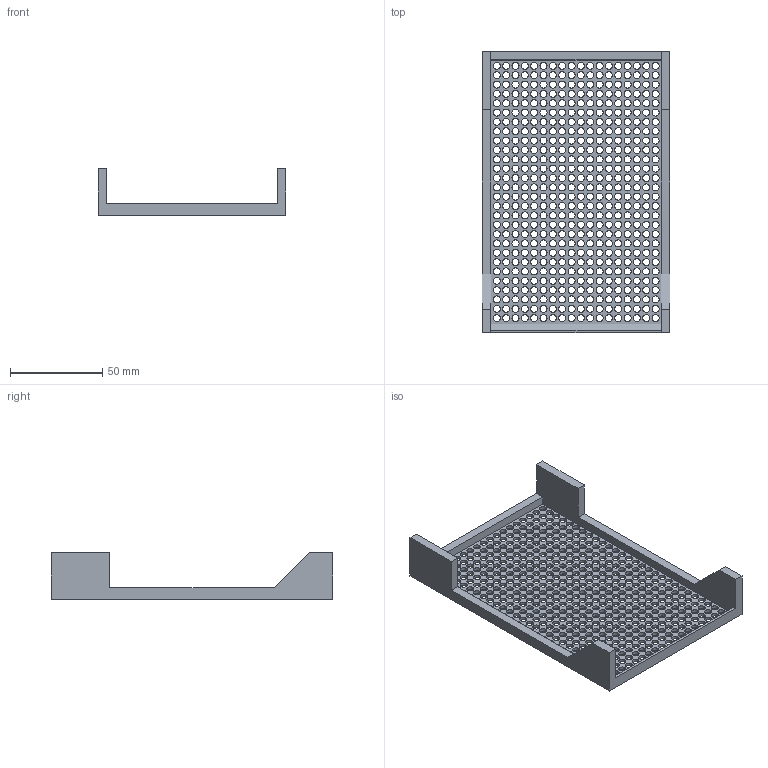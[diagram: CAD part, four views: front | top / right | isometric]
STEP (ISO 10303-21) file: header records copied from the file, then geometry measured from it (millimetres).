
FILE_DESCRIPTION(/* description */ ('STEP AP242 Edition 2','CAx-IF Rec.Pracs.---Representation and Presentation of Product Manufacturing Information (PMI)---4.0---2014-10-13','CAx-IF Rec.Pracs.---3D Tessellated Geometry---0.4---2014-09-14','2;1','CAx-IF Rec.Pracs.---User Defined Attributes---1.5---2016-08-15'),/* implementation_level */ '2;1');
FILE_NAME(/* name */ 'Part Studio 1 - Part 1',/* time_stamp */ '2026-08-02T13:57:24Z',/* author */ (''),/* organization */ (''),/* preprocessor_version */ 'ST-DEVELOPER v20',/* originating_system */ 'ONSHAPE BY PTC INC, 1.218',/* authorisation */ ' ');
FILE_SCHEMA (('AP242_MANAGED_MODEL_BASED_3D_ENGINEERING_MIM_LF { 1 0 10303 442 3 1 4 }'));
Length unit declared in the file: metre
Products named in the file (1): Part 1
Bounding box: 101.6 x 152.4 x 25.41 mm (x, y, z)
Volume: 35925 mm3; surface area: 39094.9 mm2
Topology: 1 solids, 1 shells, 527 faces, 1575 edges, 1050 vertices
Faces by surface type: cylinder 504, plane 23
Full cylindrical faces by diameter (mm): 3.81 x504
Entity records: 17875 total; most frequent: DIRECTION 3135, CARTESIAN_POINT 2649, ORIENTED_EDGE 2142, EDGE_LOOP 2039, FACE_BOUND 2039, AXIS2_PLACEMENT_3D 1536, EDGE_CURVE 1071, VERTEX_POINT 1050
